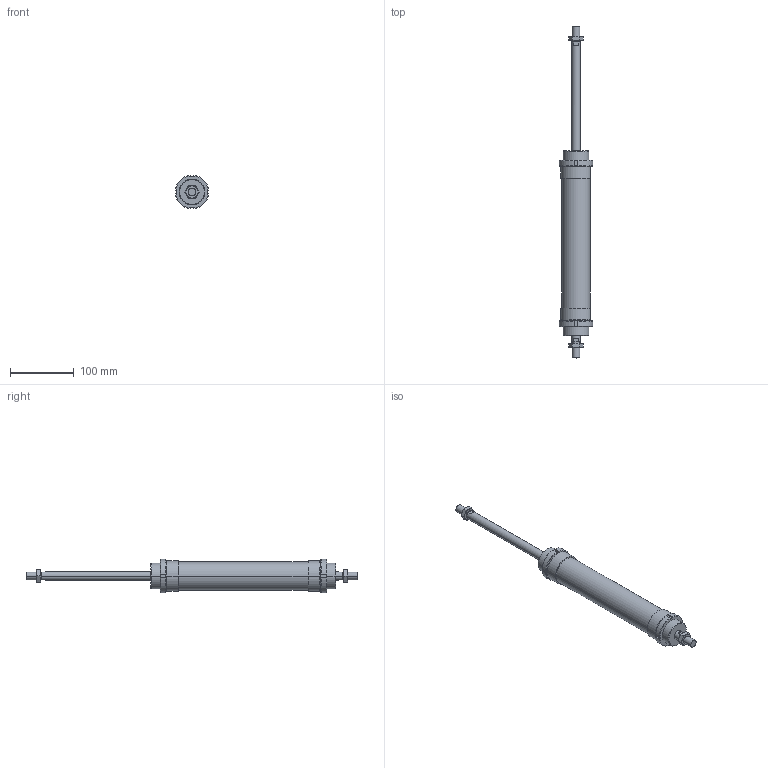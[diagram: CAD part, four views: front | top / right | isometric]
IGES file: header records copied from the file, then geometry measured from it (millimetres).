
Global section: file name: No Iges File Name specified; native system: AutoDesk Inventor R6.0; preprocessor: AutoDesk Inventor Iges Exporter R6.0; author: No Author specified; organization: No Organization specified; date: 20030403.072834; units: millimetre
Bounding box: 51.76 x 519 x 51.76 mm (x, y, z)
Volume: 485470 mm3; surface area: 90745.8 mm2
Topology: 6 solids, 6 shells, 182 faces, 424 edges, 264 vertices
Faces by surface type: plane 66, cone 52, bspline 30, cylinder 28, revolution 6
